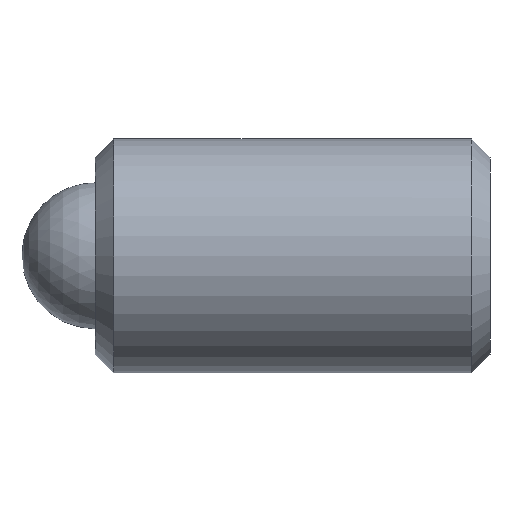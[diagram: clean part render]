
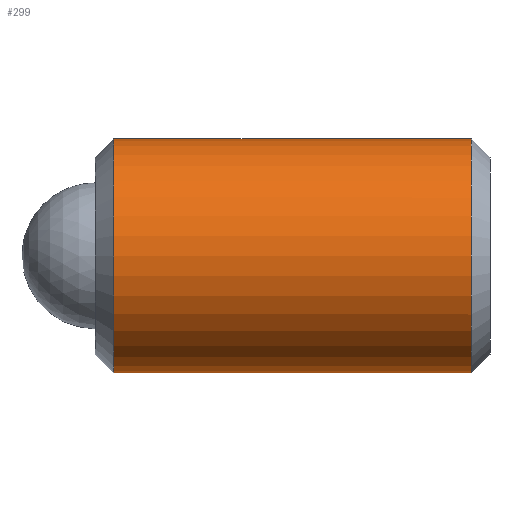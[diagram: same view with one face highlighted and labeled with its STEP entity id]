
A CAD part, front view. The second image highlights one B-rep face of the part: STEP entity #299.
In plain terms, the highlighted cylindrical face has radius 3.175 mm (diameter 6.35 mm), a partial arc.
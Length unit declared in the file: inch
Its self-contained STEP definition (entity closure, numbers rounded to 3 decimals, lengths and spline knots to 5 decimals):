
#3 = DIRECTION ( 'NONE',  ( 1., 0., 0. ) ) ;
#5 = EDGE_CURVE ( 'NONE', #45, #301, #78, .T. ) ;
#42 = DIRECTION ( 'NONE',  ( -1., 0., 0. ) ) ;
#45 = VERTEX_POINT ( 'NONE', #57 ) ;
#47 = LINE ( 'NONE', #570, #279 ) ;
#57 = CARTESIAN_POINT ( 'NONE',  ( 0.40187, 0., -0.125 ) ) ;
#60 = CARTESIAN_POINT ( 'NONE',  ( 0.02, 0., 0. ) ) ;
#78 = CIRCLE ( 'NONE', #562, 0.125 ) ;
#89 = CARTESIAN_POINT ( 'NONE',  ( 0.42188, 0., -0.125 ) ) ;
#111 = AXIS2_PLACEMENT_3D ( 'NONE', #60, #3, #571 ) ;
#129 = ORIENTED_EDGE ( 'NONE', *, *, #602, .T. ) ;
#133 = VERTEX_POINT ( 'NONE', #508 ) ;
#136 = ORIENTED_EDGE ( 'NONE', *, *, #5, .T. ) ;
#180 = ORIENTED_EDGE ( 'NONE', *, *, #591, .T. ) ;
#237 = FACE_OUTER_BOUND ( 'NONE', #478, .T. ) ;
#244 = CARTESIAN_POINT ( 'NONE',  ( 0.40187, 0., 0. ) ) ;
#259 = DIRECTION ( 'NONE',  ( -1., 0., 0. ) ) ;
#279 = VECTOR ( 'NONE', #364, 39.37008 ) ;
#299 = ADVANCED_FACE ( 'NONE', ( #237 ), #426, .T. ) ;
#301 = VERTEX_POINT ( 'NONE', #601 ) ;
#310 = CIRCLE ( 'NONE', #111, 0.125 ) ;
#311 = ORIENTED_EDGE ( 'NONE', *, *, #598, .F. ) ;
#312 = DIRECTION ( 'NONE',  ( 0., 0., -1. ) ) ;
#343 = AXIS2_PLACEMENT_3D ( 'NONE', #466, #259, #509 ) ;
#364 = DIRECTION ( 'NONE',  ( -1., 0., 0. ) ) ;
#407 = VERTEX_POINT ( 'NONE', #471 ) ;
#424 = LINE ( 'NONE', #89, #542 ) ;
#426 = CYLINDRICAL_SURFACE ( 'NONE', #343, 0.125 ) ;
#466 = CARTESIAN_POINT ( 'NONE',  ( 0.42188, 0., 0. ) ) ;
#471 = CARTESIAN_POINT ( 'NONE',  ( 0.02, 0., -0.125 ) ) ;
#475 = DIRECTION ( 'NONE',  ( -1., 0., 0. ) ) ;
#478 = EDGE_LOOP ( 'NONE', ( #311, #136, #129, #180 ) ) ;
#508 = CARTESIAN_POINT ( 'NONE',  ( 0.02, 0., 0.125 ) ) ;
#509 = DIRECTION ( 'NONE',  ( 0., 0., 1. ) ) ;
#542 = VECTOR ( 'NONE', #42, 39.37008 ) ;
#562 = AXIS2_PLACEMENT_3D ( 'NONE', #244, #475, #312 ) ;
#570 = CARTESIAN_POINT ( 'NONE',  ( 0.42188, 0., 0.125 ) ) ;
#571 = DIRECTION ( 'NONE',  ( 0., 0., -1. ) ) ;
#591 = EDGE_CURVE ( 'NONE', #133, #407, #310, .T. ) ;
#598 = EDGE_CURVE ( 'NONE', #45, #407, #424, .T. ) ;
#601 = CARTESIAN_POINT ( 'NONE',  ( 0.40187, 0., 0.125 ) ) ;
#602 = EDGE_CURVE ( 'NONE', #301, #133, #47, .T. ) ;
